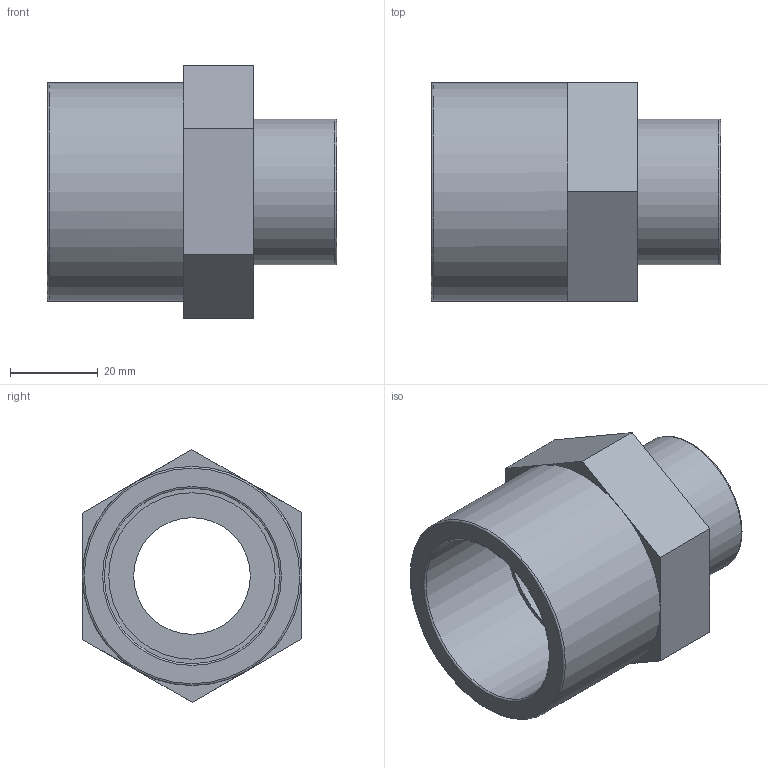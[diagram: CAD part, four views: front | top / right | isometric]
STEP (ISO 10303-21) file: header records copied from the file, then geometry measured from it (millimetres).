
FILE_DESCRIPTION(/* description */ ('PLASSON BUSHING ADAP. THR-CE 40(50)-1"'),/* implementation_level */ '2;1');
FILE_NAME(/* name */ 'C:\Dropbox\KIMPROJECTS-Inventor\99-16-3568-Processing\PVC Catalog 2017\052202\052202040010.ipt.stp',/* time_stamp */ '2017-12-07T16:02:36+02:00',/* author */ ('KIM'),/* organization */ (''),/* preprocessor_version */ 'ST-DEVELOPER v15.6',/* originating_system */ 'Autodesk Inventor 2015',/* authorisation */ '');
FILE_SCHEMA (('AUTOMOTIVE_DESIGN { 1 0 10303 214 3 1 1 }'));
Length unit declared in the file: millimetre
Products named in the file (1): 052202040010
Bounding box: 66 x 50.1 x 57.73 mm (x, y, z)
Volume: 47141.1 mm3; surface area: 19989.2 mm2
Topology: 1 solids, 1 shells, 26 faces, 53 edges, 32 vertices
Faces by surface type: plane 17, cylinder 5, torus 4
Full cylindrical faces by diameter (mm): 26.599 x1, 33.249 x1, 38 x1, 40 x1, 50 x1
Entity records: 650 total; most frequent: DIRECTION 116, CARTESIAN_POINT 101, ORIENTED_EDGE 86, AXIS2_PLACEMENT_3D 46, EDGE_CURVE 43, EDGE_LOOP 40, VERTEX_POINT 31, FACE_OUTER_BOUND 26
